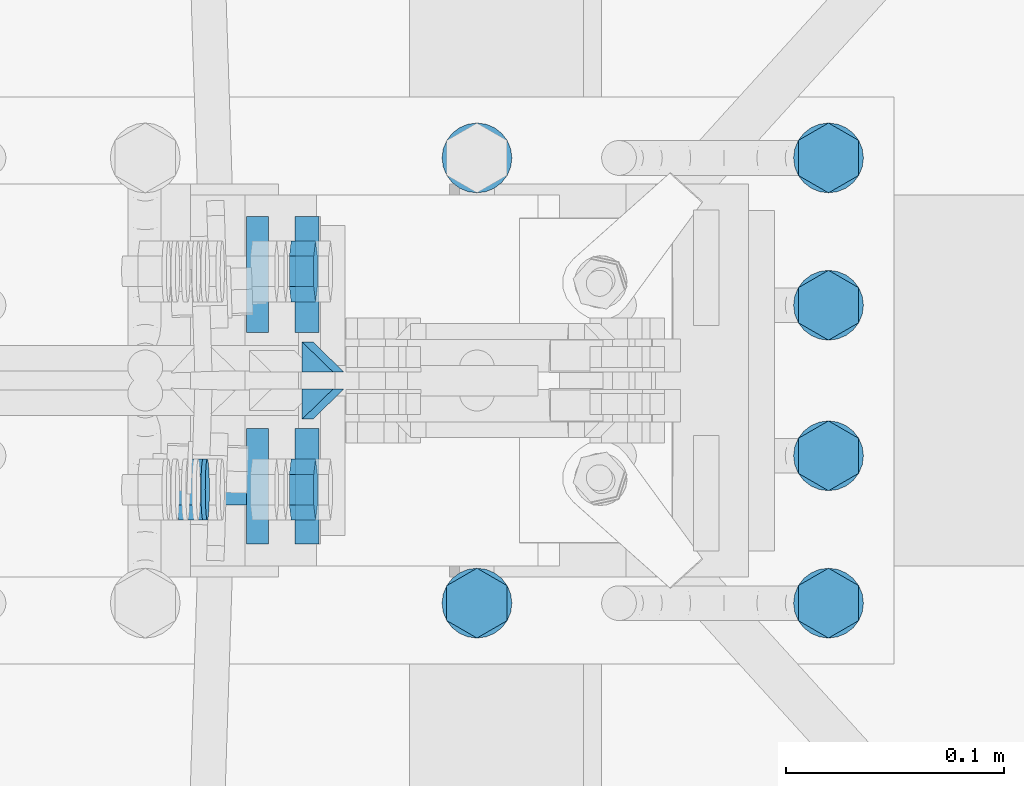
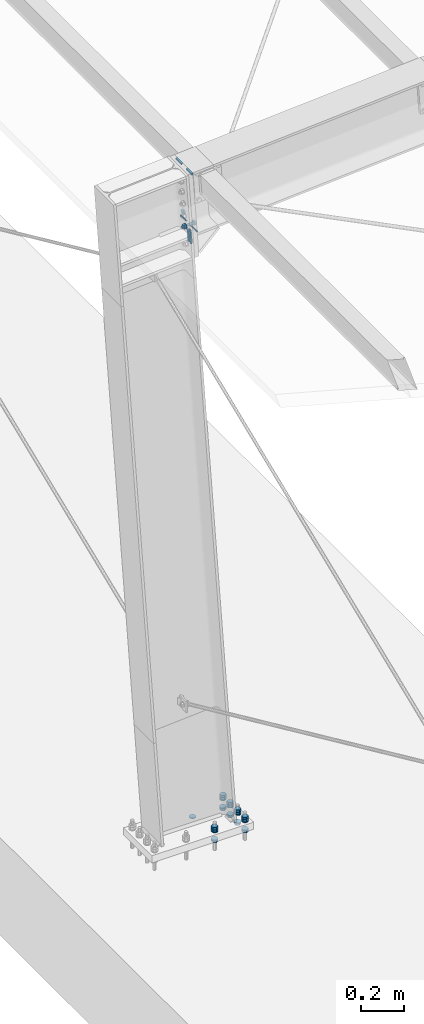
# One storey, part 45 of 72: 31 mechanical fasteners, 12 fasteners.
"""IFC4 building model written with IfcOpenShell, lengths in metres."""

from ifc_helpers import new_model, si_unit, frame, origin_with_axes, place, context, project, spatial, polyline, outline, extrude, type_object, element, save


model = new_model("IFC4")

# Units and contexts
model_context = context("Model", 3, precision=1e-05, world=origin_with_axes())
ifc_project = project(units=[si_unit("LENGTHUNIT", "METRE"), si_unit("AREAUNIT", "SQUARE_METRE"), si_unit("VOLUMEUNIT", "CUBIC_METRE"), si_unit("MASSUNIT", "GRAM", prefix="KILO"), si_unit("TIMEUNIT", "SECOND"), si_unit("PLANEANGLEUNIT", "RADIAN"), si_unit("SOLIDANGLEUNIT", "STERADIAN"), si_unit("THERMODYNAMICTEMPERATUREUNIT", "DEGREE_CELSIUS")], contexts=[model_context])

# Site, building, storey
placement_1 = place(None, origin_with_axes())
site = spatial("IfcSite", under=ifc_project, at=placement_1, Name="Italia", CompositionType="ELEMENT")
building = spatial("IfcBuilding", under=site, at=placement_1, Name="Pensilina", CompositionType="ELEMENT")
storey = spatial("IfcBuildingStorey", under=building, at=placement_1, Name="Storey 0", CompositionType="ELEMENT", Elevation=0.0)

# Mechanical fasteners
mechanical_fastener_type_1 = type_object("IfcMechanicalFastenerType", Name="Collegamento 0003_-198", PredefinedType="BOLT")
placement_2 = place(placement_1, origin_with_axes())
mechanical_fastener_1_placement = place(placement_2, origin_with_axes())
element("IfcMechanicalFastener", 1, at=mechanical_fastener_1_placement, inside=storey, type_object=mechanical_fastener_type_1, Name="Collegamento 0003_-198", NominalDiameter=0.032, context=model_context, shape_type="SweptSolid", body=[
    extrude(outline(polyline([(0.0, 0.0, 0.0), (-0.000544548, -0.00414109, 0.0), (-0.00214386, -0.00800002, 0.0), (-0.00468636, -0.0113137, 0.0), (-0.00799942, -0.0138564, 0.0), (-0.0118589, -0.0154548, 0.0), (-0.0159998, -0.016, 0.0), (-0.0201406, -0.0154548, 0.0), (-0.0240002, -0.0138564, 0.0), (-0.0273132, -0.0113137, 0.0), (-0.0298557, -0.00800002, 0.0), (-0.031455, -0.00414109, 0.0), (-0.0319996, 0.0, 0.0), (-0.031455, 0.00414109, 0.0), (-0.0298557, 0.00800002, 0.0), (-0.0273132, 0.0113137, 0.0), (-0.0240002, 0.0138564, 0.0), (-0.0201406, 0.0154548, 0.0), (-0.0159998, 0.016, 0.0), (-0.0118589, 0.0154548, 0.0), (-0.00799942, 0.0138564, 0.0), (-0.00468636, 0.0113137, 0.0), (-0.00214386, 0.00800002, 0.0), (-0.000544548, 0.00414109, 0.0), (0.0, 0.0, 0.0)])), frame((1.00805, 10.678, 0.0597081), z_axis=(0.0, 0.0, 1.0), x_axis=(0.0, 1.0, 0.0)), (0.0, 0.0, 1.0), 0.004),
])
mechanical_fastener_type_2 = type_object("IfcMechanicalFastenerType", Name="Collegamento 0003_-198", PredefinedType="BOLT")
mechanical_fastener_2_placement = place(placement_2, origin_with_axes())
element("IfcMechanicalFastener", 2, at=mechanical_fastener_2_placement, inside=storey, type_object=mechanical_fastener_type_2, Name="Collegamento 0003_-198", NominalDiameter=0.0159997, context=model_context, shape_type="SweptSolid", body=[
    extrude(outline(polyline([(0.0, 0.0, 0.0), (0.0159998, 0.0, 0.0), (0.0239992, -0.0138565, 0.0), (0.0159998, -0.0277129, 0.0), (0.0, -0.0277129, 0.0), (-0.00800037, -0.0138565, 0.0), (0.0, 0.0, 0.0)])), frame((0.99419, 10.45, 0.107708), z_axis=(0.0, 0.0, 1.0), x_axis=(0.0, 1.0, 0.0)), (0.0, 0.0, 1.0), 0.0128),
])
mechanical_fastener_type_3 = type_object("IfcMechanicalFastenerType", Name="Collegamento 0003_-198", PredefinedType="BOLT")
mechanical_fastener_3_placement = place(placement_2, origin_with_axes())
element("IfcMechanicalFastener", 3, at=mechanical_fastener_3_placement, inside=storey, type_object=mechanical_fastener_type_3, Name="Collegamento 0003_-198", NominalDiameter=0.0159997, context=model_context, shape_type="SweptSolid", body=[
    extrude(outline(polyline([(0.0, 0.0, 0.0), (0.0159998, 0.0, 0.0), (0.0239992, -0.0138565, 0.0), (0.0159998, -0.0277129, 0.0), (0.0, -0.0277129, 0.0), (-0.00800037, -0.0138565, 0.0), (0.0, 0.0, 0.0)])), frame((0.99419, 10.45, 0.120508), z_axis=(0.0, 0.0, 1.0), x_axis=(0.0, 1.0, 0.0)), (0.0, 0.0, 1.0), 0.0128),
])
mechanical_fastener_type_4 = type_object("IfcMechanicalFastenerType", Name="Collegamento 0003_-198", PredefinedType="BOLT")
mechanical_fastener_4_placement = place(placement_2, origin_with_axes())
element("IfcMechanicalFastener", 4, at=mechanical_fastener_4_placement, inside=storey, type_object=mechanical_fastener_type_4, Name="Collegamento 0003_-198", NominalDiameter=0.0159997, context=model_context, shape_type="SweptSolid", body=[
    extrude(outline(polyline([(0.0, 0.0, 0.0), (0.0159998, 0.0, 0.0), (0.0239992, -0.0138565, 0.0), (0.0159998, -0.0277129, 0.0), (0.0, -0.0277129, 0.0), (-0.00800037, -0.0138565, 0.0), (0.0, 0.0, 0.0)])), frame((0.99419, 10.45, 0.0469081), z_axis=(0.0, 0.0, 1.0), x_axis=(0.0, 1.0, 0.0)), (0.0, 0.0, 1.0), 0.0128),
])
mechanical_fastener_type_5 = type_object("IfcMechanicalFastenerType", Name="Collegamento 0003_-198", PredefinedType="BOLT")
mechanical_fastener_5_placement = place(placement_2, origin_with_axes())
element("IfcMechanicalFastener", 5, at=mechanical_fastener_5_placement, inside=storey, type_object=mechanical_fastener_type_5, Name="Collegamento 0003_-198", NominalDiameter=0.032, context=model_context, shape_type="SweptSolid", body=[
    extrude(outline(polyline([(0.0, 0.0, 0.0), (-0.000544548, -0.00414109, 0.0), (-0.00214386, -0.00800002, 0.0), (-0.00468636, -0.0113137, 0.0), (-0.00799942, -0.0138564, 0.0), (-0.0118589, -0.0154548, 0.0), (-0.0159998, -0.016, 0.0), (-0.0201406, -0.0154548, 0.0), (-0.0240002, -0.0138564, 0.0), (-0.0273132, -0.0113137, 0.0), (-0.0298557, -0.00800002, 0.0), (-0.031455, -0.00414109, 0.0), (-0.0319996, 0.0, 0.0), (-0.031455, 0.00414109, 0.0), (-0.0298557, 0.00800002, 0.0), (-0.0273132, 0.0113137, 0.0), (-0.0240002, 0.0138564, 0.0), (-0.0201406, 0.0154548, 0.0), (-0.0159998, 0.016, 0.0), (-0.0118589, 0.0154548, 0.0), (-0.00799942, 0.0138564, 0.0), (-0.00468636, 0.0113137, 0.0), (-0.00214386, 0.00800002, 0.0), (-0.000544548, 0.00414109, 0.0), (0.0, 0.0, 0.0)])), frame((1.00805, 10.474, 0.103708), z_axis=(0.0, 0.0, 1.0), x_axis=(0.0, 1.0, 0.0)), (0.0, 0.0, 1.0), 0.004),
])
mechanical_fastener_type_6 = type_object("IfcMechanicalFastenerType", Name="Collegamento 0003_-198", PredefinedType="BOLT")
mechanical_fastener_6_placement = place(placement_2, origin_with_axes())
element("IfcMechanicalFastener", 6, at=mechanical_fastener_6_placement, inside=storey, type_object=mechanical_fastener_type_6, Name="Collegamento 0003_-198", NominalDiameter=0.032, context=model_context, shape_type="SweptSolid", body=[
    extrude(outline(polyline([(0.0, 0.0, 0.0), (-0.000544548, -0.00414109, 0.0), (-0.00214386, -0.00800002, 0.0), (-0.00468636, -0.0113137, 0.0), (-0.00799942, -0.0138564, 0.0), (-0.0118589, -0.0154548, 0.0), (-0.0159998, -0.016, 0.0), (-0.0201406, -0.0154548, 0.0), (-0.0240002, -0.0138564, 0.0), (-0.0273132, -0.0113137, 0.0), (-0.0298557, -0.00800002, 0.0), (-0.031455, -0.00414109, 0.0), (-0.0319996, 0.0, 0.0), (-0.031455, 0.00414109, 0.0), (-0.0298557, 0.00800002, 0.0), (-0.0273132, 0.0113137, 0.0), (-0.0240002, 0.0138564, 0.0), (-0.0201406, 0.0154548, 0.0), (-0.0159998, 0.016, 0.0), (-0.0118589, 0.0154548, 0.0), (-0.00799942, 0.0138564, 0.0), (-0.00468636, 0.0113137, 0.0), (-0.00214386, 0.00800002, 0.0), (-0.000544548, 0.00414109, 0.0), (0.0, 0.0, 0.0)])), frame((1.00805, 10.474, 0.0597081), z_axis=(0.0, 0.0, 1.0), x_axis=(0.0, 1.0, 0.0)), (0.0, 0.0, 1.0), 0.004),
])
mechanical_fastener_type_7 = type_object("IfcMechanicalFastenerType", Name="Collegamento 0003_-198", PredefinedType="BOLT")
mechanical_fastener_7_placement = place(placement_2, origin_with_axes())
element("IfcMechanicalFastener", 7, at=mechanical_fastener_7_placement, inside=storey, type_object=mechanical_fastener_type_7, Name="Collegamento 0003_-198", NominalDiameter=0.0159997, context=model_context, shape_type="SweptSolid", body=[
    extrude(outline(polyline([(0.0, 0.0, 0.0), (0.0159998, 0.0, 0.0), (0.0240002, -0.0138564, 0.0), (0.0159998, -0.0277128, 0.0), (0.0, -0.0277128, 0.0), (-0.00799942, -0.0138564, 0.0), (0.0, 0.0, 0.0)])), frame((1.15527, 10.654, 0.107708), z_axis=(0.0, 0.0, 1.0), x_axis=(0.0, 1.0, 0.0)), (0.0, 0.0, 1.0), 0.0128),
])
mechanical_fastener_type_8 = type_object("IfcMechanicalFastenerType", Name="Collegamento 0003_-198", PredefinedType="BOLT")
mechanical_fastener_8_placement = place(placement_2, origin_with_axes())
element("IfcMechanicalFastener", 8, at=mechanical_fastener_8_placement, inside=storey, type_object=mechanical_fastener_type_8, Name="Collegamento 0003_-198", NominalDiameter=0.0159997, context=model_context, shape_type="SweptSolid", body=[
    extrude(outline(polyline([(0.0, 0.0, 0.0), (0.0159998, 0.0, 0.0), (0.0240002, -0.0138564, 0.0), (0.0159998, -0.0277128, 0.0), (0.0, -0.0277128, 0.0), (-0.00799942, -0.0138564, 0.0), (0.0, 0.0, 0.0)])), frame((1.15527, 10.654, 0.120508), z_axis=(0.0, 0.0, 1.0), x_axis=(0.0, 1.0, 0.0)), (0.0, 0.0, 1.0), 0.0128),
])
mechanical_fastener_type_9 = type_object("IfcMechanicalFastenerType", Name="Collegamento 0003_-198", PredefinedType="BOLT")
mechanical_fastener_9_placement = place(placement_2, origin_with_axes())
element("IfcMechanicalFastener", 9, at=mechanical_fastener_9_placement, inside=storey, type_object=mechanical_fastener_type_9, Name="Collegamento 0003_-198", NominalDiameter=0.0159997, context=model_context, shape_type="SweptSolid", body=[
    extrude(outline(polyline([(0.0, 0.0, 0.0), (0.0159998, 0.0, 0.0), (0.0240002, -0.0138564, 0.0), (0.0159998, -0.0277128, 0.0), (0.0, -0.0277128, 0.0), (-0.00799942, -0.0138564, 0.0), (0.0, 0.0, 0.0)])), frame((1.15527, 10.654, 0.0469081), z_axis=(0.0, 0.0, 1.0), x_axis=(0.0, 1.0, 0.0)), (0.0, 0.0, 1.0), 0.0128),
])
mechanical_fastener_type_10 = type_object("IfcMechanicalFastenerType", Name="Collegamento 0003_-198", PredefinedType="BOLT")
mechanical_fastener_10_placement = place(placement_2, origin_with_axes())
element("IfcMechanicalFastener", 10, at=mechanical_fastener_10_placement, inside=storey, type_object=mechanical_fastener_type_10, Name="Collegamento 0003_-198", NominalDiameter=0.032, context=model_context, shape_type="SweptSolid", body=[
    extrude(outline(polyline([(0.0, 0.0, 0.0), (-0.000544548, -0.00414109, 0.0), (-0.00214386, -0.00800002, 0.0), (-0.00468636, -0.0113137, 0.0), (-0.00799942, -0.0138564, 0.0), (-0.0118589, -0.0154548, 0.0), (-0.0159998, -0.016, 0.0), (-0.0201406, -0.0154548, 0.0), (-0.0240002, -0.0138564, 0.0), (-0.0273132, -0.0113137, 0.0), (-0.0298557, -0.00800002, 0.0), (-0.031455, -0.00414109, 0.0), (-0.0319996, 0.0, 0.0), (-0.031455, 0.00414109, 0.0), (-0.0298557, 0.00800002, 0.0), (-0.0273132, 0.0113137, 0.0), (-0.0240002, 0.0138564, 0.0), (-0.0201406, 0.0154548, 0.0), (-0.0159998, 0.016, 0.0), (-0.0118589, 0.0154548, 0.0), (-0.00799942, 0.0138564, 0.0), (-0.00468636, 0.0113137, 0.0), (-0.00214386, 0.00800002, 0.0), (-0.000544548, 0.00414109, 0.0), (0.0, 0.0, 0.0)])), frame((1.16913, 10.678, 0.103708), z_axis=(0.0, 0.0, 1.0), x_axis=(0.0, 1.0, 0.0)), (0.0, 0.0, 1.0), 0.004),
])
mechanical_fastener_type_11 = type_object("IfcMechanicalFastenerType", Name="Collegamento 0003_-198", PredefinedType="BOLT")
mechanical_fastener_11_placement = place(placement_2, origin_with_axes())
element("IfcMechanicalFastener", 11, at=mechanical_fastener_11_placement, inside=storey, type_object=mechanical_fastener_type_11, Name="Collegamento 0003_-198", NominalDiameter=0.032, context=model_context, shape_type="SweptSolid", body=[
    extrude(outline(polyline([(0.0, 0.0, 0.0), (-0.000544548, -0.00414109, 0.0), (-0.00214386, -0.00800002, 0.0), (-0.00468636, -0.0113137, 0.0), (-0.00799942, -0.0138564, 0.0), (-0.0118589, -0.0154548, 0.0), (-0.0159998, -0.016, 0.0), (-0.0201406, -0.0154548, 0.0), (-0.0240002, -0.0138564, 0.0), (-0.0273132, -0.0113137, 0.0), (-0.0298557, -0.00800002, 0.0), (-0.031455, -0.00414109, 0.0), (-0.0319996, 0.0, 0.0), (-0.031455, 0.00414109, 0.0), (-0.0298557, 0.00800002, 0.0), (-0.0273132, 0.0113137, 0.0), (-0.0240002, 0.0138564, 0.0), (-0.0201406, 0.0154548, 0.0), (-0.0159998, 0.016, 0.0), (-0.0118589, 0.0154548, 0.0), (-0.00799942, 0.0138564, 0.0), (-0.00468636, 0.0113137, 0.0), (-0.00214386, 0.00800002, 0.0), (-0.000544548, 0.00414109, 0.0), (0.0, 0.0, 0.0)])), frame((1.16913, 10.678, 0.0597081), z_axis=(0.0, 0.0, 1.0), x_axis=(0.0, 1.0, 0.0)), (0.0, 0.0, 1.0), 0.004),
])
mechanical_fastener_type_12 = type_object("IfcMechanicalFastenerType", Name="Collegamento 0003_-198", PredefinedType="BOLT")
mechanical_fastener_12_placement = place(placement_2, origin_with_axes())
element("IfcMechanicalFastener", 12, at=mechanical_fastener_12_placement, inside=storey, type_object=mechanical_fastener_type_12, Name="Collegamento 0003_-198", NominalDiameter=0.0159997, context=model_context, shape_type="SweptSolid", body=[
    extrude(outline(polyline([(0.0, 0.0, 0.0), (0.0159998, 0.0, 0.0), (0.0240002, -0.0138564, 0.0), (0.0159998, -0.0277128, 0.0), (0.0, -0.0277128, 0.0), (-0.00799942, -0.0138564, 0.0), (0.0, 0.0, 0.0)])), frame((1.15527, 10.5865, 0.107708), z_axis=(0.0, 0.0, 1.0), x_axis=(0.0, 1.0, 0.0)), (0.0, 0.0, 1.0), 0.0128),
])
mechanical_fastener_type_13 = type_object("IfcMechanicalFastenerType", Name="Collegamento 0003_-198", PredefinedType="BOLT")
mechanical_fastener_13_placement = place(placement_2, origin_with_axes())
element("IfcMechanicalFastener", 13, at=mechanical_fastener_13_placement, inside=storey, type_object=mechanical_fastener_type_13, Name="Collegamento 0003_-198", NominalDiameter=0.0159997, context=model_context, shape_type="SweptSolid", body=[
    extrude(outline(polyline([(0.0, 0.0, 0.0), (0.0159998, 0.0, 0.0), (0.0240002, -0.0138564, 0.0), (0.0159998, -0.0277128, 0.0), (0.0, -0.0277128, 0.0), (-0.00799942, -0.0138564, 0.0), (0.0, 0.0, 0.0)])), frame((1.15527, 10.5865, 0.120508), z_axis=(0.0, 0.0, 1.0), x_axis=(0.0, 1.0, 0.0)), (0.0, 0.0, 1.0), 0.0128),
])
mechanical_fastener_type_14 = type_object("IfcMechanicalFastenerType", Name="Collegamento 0003_-198", PredefinedType="BOLT")
mechanical_fastener_14_placement = place(placement_2, origin_with_axes())
element("IfcMechanicalFastener", 14, at=mechanical_fastener_14_placement, inside=storey, type_object=mechanical_fastener_type_14, Name="Collegamento 0003_-198", NominalDiameter=0.0159997, context=model_context, shape_type="SweptSolid", body=[
    extrude(outline(polyline([(0.0, 0.0, 0.0), (0.0159998, 0.0, 0.0), (0.0240002, -0.0138564, 0.0), (0.0159998, -0.0277128, 0.0), (0.0, -0.0277128, 0.0), (-0.00799942, -0.0138564, 0.0), (0.0, 0.0, 0.0)])), frame((1.15527, 10.5865, 0.0469081), z_axis=(0.0, 0.0, 1.0), x_axis=(0.0, 1.0, 0.0)), (0.0, 0.0, 1.0), 0.0128),
])
mechanical_fastener_type_15 = type_object("IfcMechanicalFastenerType", Name="Collegamento 0003_-198", PredefinedType="BOLT")
mechanical_fastener_15_placement = place(placement_2, origin_with_axes())
element("IfcMechanicalFastener", 15, at=mechanical_fastener_15_placement, inside=storey, type_object=mechanical_fastener_type_15, Name="Collegamento 0003_-198", NominalDiameter=0.032, context=model_context, shape_type="SweptSolid", body=[
    extrude(outline(polyline([(0.0, 0.0, 0.0), (-0.000544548, -0.00414109, 0.0), (-0.00214386, -0.00800002, 0.0), (-0.00468636, -0.0113137, 0.0), (-0.00799942, -0.0138564, 0.0), (-0.0118589, -0.0154548, 0.0), (-0.0159998, -0.016, 0.0), (-0.0201406, -0.0154548, 0.0), (-0.0240002, -0.0138564, 0.0), (-0.0273132, -0.0113137, 0.0), (-0.0298557, -0.00800002, 0.0), (-0.031455, -0.00414109, 0.0), (-0.0319996, 0.0, 0.0), (-0.031455, 0.00414109, 0.0), (-0.0298557, 0.00800002, 0.0), (-0.0273132, 0.0113137, 0.0), (-0.0240002, 0.0138564, 0.0), (-0.0201406, 0.0154548, 0.0), (-0.0159998, 0.016, 0.0), (-0.0118589, 0.0154548, 0.0), (-0.00799942, 0.0138564, 0.0), (-0.00468636, 0.0113137, 0.0), (-0.00214386, 0.00800002, 0.0), (-0.000544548, 0.00414109, 0.0), (0.0, 0.0, 0.0)])), frame((1.16913, 10.6105, 0.103708), z_axis=(0.0, 0.0, 1.0), x_axis=(0.0, 1.0, 0.0)), (0.0, 0.0, 1.0), 0.004),
])
mechanical_fastener_type_16 = type_object("IfcMechanicalFastenerType", Name="Collegamento 0003_-198", PredefinedType="BOLT")
mechanical_fastener_16_placement = place(placement_2, origin_with_axes())
element("IfcMechanicalFastener", 16, at=mechanical_fastener_16_placement, inside=storey, type_object=mechanical_fastener_type_16, Name="Collegamento 0003_-198", NominalDiameter=0.032, context=model_context, shape_type="SweptSolid", body=[
    extrude(outline(polyline([(0.0, 0.0, 0.0), (-0.000544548, -0.00414109, 0.0), (-0.00214386, -0.00800002, 0.0), (-0.00468636, -0.0113137, 0.0), (-0.00799942, -0.0138564, 0.0), (-0.0118589, -0.0154548, 0.0), (-0.0159998, -0.016, 0.0), (-0.0201406, -0.0154548, 0.0), (-0.0240002, -0.0138564, 0.0), (-0.0273132, -0.0113137, 0.0), (-0.0298557, -0.00800002, 0.0), (-0.031455, -0.00414109, 0.0), (-0.0319996, 0.0, 0.0), (-0.031455, 0.00414109, 0.0), (-0.0298557, 0.00800002, 0.0), (-0.0273132, 0.0113137, 0.0), (-0.0240002, 0.0138564, 0.0), (-0.0201406, 0.0154548, 0.0), (-0.0159998, 0.016, 0.0), (-0.0118589, 0.0154548, 0.0), (-0.00799942, 0.0138564, 0.0), (-0.00468636, 0.0113137, 0.0), (-0.00214386, 0.00800002, 0.0), (-0.000544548, 0.00414109, 0.0), (0.0, 0.0, 0.0)])), frame((1.16913, 10.6105, 0.0597081), z_axis=(0.0, 0.0, 1.0), x_axis=(0.0, 1.0, 0.0)), (0.0, 0.0, 1.0), 0.004),
])
mechanical_fastener_type_17 = type_object("IfcMechanicalFastenerType", Name="Collegamento 0003_-198", PredefinedType="BOLT")
mechanical_fastener_17_placement = place(placement_2, origin_with_axes())
element("IfcMechanicalFastener", 17, at=mechanical_fastener_17_placement, inside=storey, type_object=mechanical_fastener_type_17, Name="Collegamento 0003_-198", NominalDiameter=0.0159997, context=model_context, shape_type="SweptSolid", body=[
    extrude(outline(polyline([(0.0, 0.0, 0.0), (0.0159998, 0.0, 0.0), (0.0239992, -0.0138564, 0.0), (0.0159998, -0.0277128, 0.0), (0.0, -0.0277128, 0.0), (-0.00800037, -0.0138564, 0.0), (0.0, 0.0, 0.0)])), frame((1.15527, 10.5175, 0.107708), z_axis=(0.0, 0.0, 1.0), x_axis=(0.0, 1.0, 0.0)), (0.0, 0.0, 1.0), 0.0128),
])
mechanical_fastener_type_18 = type_object("IfcMechanicalFastenerType", Name="Collegamento 0003_-198", PredefinedType="BOLT")
mechanical_fastener_18_placement = place(placement_2, origin_with_axes())
element("IfcMechanicalFastener", 18, at=mechanical_fastener_18_placement, inside=storey, type_object=mechanical_fastener_type_18, Name="Collegamento 0003_-198", NominalDiameter=0.0159997, context=model_context, shape_type="SweptSolid", body=[
    extrude(outline(polyline([(0.0, 0.0, 0.0), (0.0159998, 0.0, 0.0), (0.0239992, -0.0138564, 0.0), (0.0159998, -0.0277128, 0.0), (0.0, -0.0277128, 0.0), (-0.00800037, -0.0138564, 0.0), (0.0, 0.0, 0.0)])), frame((1.15527, 10.5175, 0.120508), z_axis=(0.0, 0.0, 1.0), x_axis=(0.0, 1.0, 0.0)), (0.0, 0.0, 1.0), 0.0128),
])
mechanical_fastener_type_19 = type_object("IfcMechanicalFastenerType", Name="Collegamento 0003_-198", PredefinedType="BOLT")
mechanical_fastener_19_placement = place(placement_2, origin_with_axes())
element("IfcMechanicalFastener", 19, at=mechanical_fastener_19_placement, inside=storey, type_object=mechanical_fastener_type_19, Name="Collegamento 0003_-198", NominalDiameter=0.0159997, context=model_context, shape_type="SweptSolid", body=[
    extrude(outline(polyline([(0.0, 0.0, 0.0), (0.0159998, 0.0, 0.0), (0.0239992, -0.0138564, 0.0), (0.0159998, -0.0277128, 0.0), (0.0, -0.0277128, 0.0), (-0.00800037, -0.0138564, 0.0), (0.0, 0.0, 0.0)])), frame((1.15527, 10.5175, 0.0469081), z_axis=(0.0, 0.0, 1.0), x_axis=(0.0, 1.0, 0.0)), (0.0, 0.0, 1.0), 0.0128),
])
mechanical_fastener_type_20 = type_object("IfcMechanicalFastenerType", Name="Collegamento 0003_-198", PredefinedType="BOLT")
mechanical_fastener_20_placement = place(placement_2, origin_with_axes())
element("IfcMechanicalFastener", 20, at=mechanical_fastener_20_placement, inside=storey, type_object=mechanical_fastener_type_20, Name="Collegamento 0003_-198", NominalDiameter=0.032, context=model_context, shape_type="SweptSolid", body=[
    extrude(outline(polyline([(0.0, 0.0, 0.0), (-0.000544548, -0.00414109, 0.0), (-0.00214386, -0.00800002, 0.0), (-0.00468636, -0.0113137, 0.0), (-0.00799942, -0.0138564, 0.0), (-0.0118589, -0.0154548, 0.0), (-0.0159998, -0.016, 0.0), (-0.0201406, -0.0154548, 0.0), (-0.0240002, -0.0138564, 0.0), (-0.0273132, -0.0113137, 0.0), (-0.0298557, -0.00800002, 0.0), (-0.031455, -0.00414109, 0.0), (-0.0319996, 0.0, 0.0), (-0.031455, 0.00414109, 0.0), (-0.0298557, 0.00800002, 0.0), (-0.0273132, 0.0113137, 0.0), (-0.0240002, 0.0138564, 0.0), (-0.0201406, 0.0154548, 0.0), (-0.0159998, 0.016, 0.0), (-0.0118589, 0.0154548, 0.0), (-0.00799942, 0.0138564, 0.0), (-0.00468636, 0.0113137, 0.0), (-0.00214386, 0.00800002, 0.0), (-0.000544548, 0.00414109, 0.0), (0.0, 0.0, 0.0)])), frame((1.16913, 10.5415, 0.103708), z_axis=(0.0, 0.0, 1.0), x_axis=(0.0, 1.0, 0.0)), (0.0, 0.0, 1.0), 0.004),
])
mechanical_fastener_type_21 = type_object("IfcMechanicalFastenerType", Name="Collegamento 0003_-198", PredefinedType="BOLT")
mechanical_fastener_21_placement = place(placement_2, origin_with_axes())
element("IfcMechanicalFastener", 21, at=mechanical_fastener_21_placement, inside=storey, type_object=mechanical_fastener_type_21, Name="Collegamento 0003_-198", NominalDiameter=0.032, context=model_context, shape_type="SweptSolid", body=[
    extrude(outline(polyline([(0.0, 0.0, 0.0), (-0.000544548, -0.00414109, 0.0), (-0.00214386, -0.00800002, 0.0), (-0.00468636, -0.0113137, 0.0), (-0.00799942, -0.0138564, 0.0), (-0.0118589, -0.0154548, 0.0), (-0.0159998, -0.016, 0.0), (-0.0201406, -0.0154548, 0.0), (-0.0240002, -0.0138564, 0.0), (-0.0273132, -0.0113137, 0.0), (-0.0298557, -0.00800002, 0.0), (-0.031455, -0.00414109, 0.0), (-0.0319996, 0.0, 0.0), (-0.031455, 0.00414109, 0.0), (-0.0298557, 0.00800002, 0.0), (-0.0273132, 0.0113137, 0.0), (-0.0240002, 0.0138564, 0.0), (-0.0201406, 0.0154548, 0.0), (-0.0159998, 0.016, 0.0), (-0.0118589, 0.0154548, 0.0), (-0.00799942, 0.0138564, 0.0), (-0.00468636, 0.0113137, 0.0), (-0.00214386, 0.00800002, 0.0), (-0.000544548, 0.00414109, 0.0), (0.0, 0.0, 0.0)])), frame((1.16913, 10.5415, 0.0597081), z_axis=(0.0, 0.0, 1.0), x_axis=(0.0, 1.0, 0.0)), (0.0, 0.0, 1.0), 0.004),
])
mechanical_fastener_type_22 = type_object("IfcMechanicalFastenerType", Name="Collegamento 0003_-198", PredefinedType="BOLT")
mechanical_fastener_22_placement = place(placement_2, origin_with_axes())
element("IfcMechanicalFastener", 22, at=mechanical_fastener_22_placement, inside=storey, type_object=mechanical_fastener_type_22, Name="Collegamento 0003_-198", NominalDiameter=0.0159997, context=model_context, shape_type="SweptSolid", body=[
    extrude(outline(polyline([(0.0, 0.0, 0.0), (0.0159998, 0.0, 0.0), (0.0239992, -0.0138564, 0.0), (0.0159998, -0.0277128, 0.0), (0.0, -0.0277128, 0.0), (-0.00800037, -0.0138564, 0.0), (0.0, 0.0, 0.0)])), frame((1.15527, 10.45, 0.107708), z_axis=(0.0, 0.0, 1.0), x_axis=(0.0, 1.0, 0.0)), (0.0, 0.0, 1.0), 0.0128),
])
mechanical_fastener_type_23 = type_object("IfcMechanicalFastenerType", Name="Collegamento 0003_-198", PredefinedType="BOLT")
mechanical_fastener_23_placement = place(placement_2, origin_with_axes())
element("IfcMechanicalFastener", 23, at=mechanical_fastener_23_placement, inside=storey, type_object=mechanical_fastener_type_23, Name="Collegamento 0003_-198", NominalDiameter=0.0159997, context=model_context, shape_type="SweptSolid", body=[
    extrude(outline(polyline([(0.0, 0.0, 0.0), (0.0159998, 0.0, 0.0), (0.0239992, -0.0138564, 0.0), (0.0159998, -0.0277128, 0.0), (0.0, -0.0277128, 0.0), (-0.00800037, -0.0138564, 0.0), (0.0, 0.0, 0.0)])), frame((1.15527, 10.45, 0.120508), z_axis=(0.0, 0.0, 1.0), x_axis=(0.0, 1.0, 0.0)), (0.0, 0.0, 1.0), 0.0128),
])
mechanical_fastener_type_24 = type_object("IfcMechanicalFastenerType", Name="Collegamento 0003_-198", PredefinedType="BOLT")
mechanical_fastener_24_placement = place(placement_2, origin_with_axes())
element("IfcMechanicalFastener", 24, at=mechanical_fastener_24_placement, inside=storey, type_object=mechanical_fastener_type_24, Name="Collegamento 0003_-198", NominalDiameter=0.0159997, context=model_context, shape_type="SweptSolid", body=[
    extrude(outline(polyline([(0.0, 0.0, 0.0), (0.0159998, 0.0, 0.0), (0.0239992, -0.0138564, 0.0), (0.0159998, -0.0277128, 0.0), (0.0, -0.0277128, 0.0), (-0.00800037, -0.0138564, 0.0), (0.0, 0.0, 0.0)])), frame((1.15527, 10.45, 0.0469081), z_axis=(0.0, 0.0, 1.0), x_axis=(0.0, 1.0, 0.0)), (0.0, 0.0, 1.0), 0.0128),
])
mechanical_fastener_type_25 = type_object("IfcMechanicalFastenerType", Name="Collegamento 0003_-198", PredefinedType="BOLT")
mechanical_fastener_25_placement = place(placement_2, origin_with_axes())
element("IfcMechanicalFastener", 25, at=mechanical_fastener_25_placement, inside=storey, type_object=mechanical_fastener_type_25, Name="Collegamento 0003_-198", NominalDiameter=0.032, context=model_context, shape_type="SweptSolid", body=[
    extrude(outline(polyline([(0.0, 0.0, 0.0), (-0.000544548, -0.00414109, 0.0), (-0.00214386, -0.00800002, 0.0), (-0.00468636, -0.0113137, 0.0), (-0.00799942, -0.0138564, 0.0), (-0.0118589, -0.0154548, 0.0), (-0.0159998, -0.016, 0.0), (-0.0201406, -0.0154548, 0.0), (-0.0240002, -0.0138564, 0.0), (-0.0273132, -0.0113137, 0.0), (-0.0298557, -0.00800002, 0.0), (-0.031455, -0.00414109, 0.0), (-0.0319996, 0.0, 0.0), (-0.031455, 0.00414109, 0.0), (-0.0298557, 0.00800002, 0.0), (-0.0273132, 0.0113137, 0.0), (-0.0240002, 0.0138564, 0.0), (-0.0201406, 0.0154548, 0.0), (-0.0159998, 0.016, 0.0), (-0.0118589, 0.0154548, 0.0), (-0.00799942, 0.0138564, 0.0), (-0.00468636, 0.0113137, 0.0), (-0.00214386, 0.00800002, 0.0), (-0.000544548, 0.00414109, 0.0), (0.0, 0.0, 0.0)])), frame((1.16913, 10.474, 0.103708), z_axis=(0.0, 0.0, 1.0), x_axis=(0.0, 1.0, 0.0)), (0.0, 0.0, 1.0), 0.004),
])
mechanical_fastener_type_26 = type_object("IfcMechanicalFastenerType", Name="Collegamento 0003_-198", PredefinedType="BOLT")
mechanical_fastener_26_placement = place(placement_2, origin_with_axes())
element("IfcMechanicalFastener", 26, at=mechanical_fastener_26_placement, inside=storey, type_object=mechanical_fastener_type_26, Name="Collegamento 0003_-198", NominalDiameter=0.032, context=model_context, shape_type="SweptSolid", body=[
    extrude(outline(polyline([(0.0, 0.0, 0.0), (-0.000544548, -0.00414109, 0.0), (-0.00214386, -0.00800002, 0.0), (-0.00468636, -0.0113137, 0.0), (-0.00799942, -0.0138564, 0.0), (-0.0118589, -0.0154548, 0.0), (-0.0159998, -0.016, 0.0), (-0.0201406, -0.0154548, 0.0), (-0.0240002, -0.0138564, 0.0), (-0.0273132, -0.0113137, 0.0), (-0.0298557, -0.00800002, 0.0), (-0.031455, -0.00414109, 0.0), (-0.0319996, 0.0, 0.0), (-0.031455, 0.00414109, 0.0), (-0.0298557, 0.00800002, 0.0), (-0.0273132, 0.0113137, 0.0), (-0.0240002, 0.0138564, 0.0), (-0.0201406, 0.0154548, 0.0), (-0.0159998, 0.016, 0.0), (-0.0118589, 0.0154548, 0.0), (-0.00799942, 0.0138564, 0.0), (-0.00468636, 0.0113137, 0.0), (-0.00214386, 0.00800002, 0.0), (-0.000544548, 0.00414109, 0.0), (0.0, 0.0, 0.0)])), frame((1.16913, 10.474, 0.0597081), z_axis=(0.0, 0.0, 1.0), x_axis=(0.0, 1.0, 0.0)), (0.0, 0.0, 1.0), 0.004),
])

# Fasteners
fastener_type_1 = type_object("IfcFastenerType", Name="Collegamento 0103_0203", PredefinedType="WELD")
fastener_1_placement = place(placement_2, origin_with_axes())
element("IfcFastener", 27, at=fastener_1_placement, inside=storey, type_object=fastener_type_1, Name="Collegamento 0103_0203", context=model_context, shape_type="SweptSolid", body=[
    extrude(outline(polyline([(0.0, 0.0, 0.0), (-0.00947309, 0.0105422, 0.0), (0.000676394, 0.00984502, 0.0), (0.0, 0.0, 0.0)])), frame((0.903157, 10.582, 3.80624), z_axis=(0.0, 1.0, 0.0), x_axis=(-1.0, 0.0, 0.0)), (0.0, 0.0, 1.0), 0.0531006),
])
fastener_type_2 = type_object("IfcFastenerType", Name="Collegamento 0103_0203", PredefinedType="WELD")
fastener_2_placement = place(placement_2, origin_with_axes())
element("IfcFastener", 28, at=fastener_2_placement, inside=storey, type_object=fastener_type_2, Name="Collegamento 0103_0203", context=model_context, shape_type="SweptSolid", body=[
    extrude(outline(polyline([(0.0, 0.0, 0.0), (0.0108258, -0.00914764, 0.0), (0.000676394, -0.00984478, 0.0), (0.0, 0.0, 0.0)])), frame((0.924744, 10.6351, 3.49202), z_axis=(0.0, -1.0, 0.0), x_axis=(1.0, 0.0, 0.0)), (0.0, 0.0, 1.0), 0.0531006),
])
fastener_type_3 = type_object("IfcFastenerType", Name="Collegamento 0103_0203", PredefinedType="WELD")
fastener_3_placement = place(placement_2, origin_with_axes())
element("IfcFastener", 29, at=fastener_3_placement, inside=storey, type_object=fastener_type_3, Name="Collegamento 0103_0203", context=model_context, shape_type="SweptSolid", body=[
    extrude(outline(polyline([(0.0, 0.0, 0.0), (0.0108258, -0.00914764, 0.0), (0.000676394, -0.00984478, 0.0), (0.0, 0.0, 0.0)])), frame((0.924744, 10.5381, 3.49202), z_axis=(0.0, -1.0, 0.0), x_axis=(1.0, 0.0, 0.0)), (0.0, 0.0, 1.0), 0.0531006),
])
fastener_type_4 = type_object("IfcFastenerType", Name="Collegamento 0103_0203", PredefinedType="WELD")
fastener_4_placement = place(placement_2, origin_with_axes())
element("IfcFastener", 30, at=fastener_4_placement, inside=storey, type_object=fastener_type_4, Name="Collegamento 0103_0203", context=model_context, shape_type="SweptSolid", body=[
    extrude(outline(polyline([(0.0, 0.0, 0.0), (-0.00947309, 0.0105422, 0.0), (0.000676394, 0.00984502, 0.0), (0.0, 0.0, 0.0)])), frame((0.903157, 10.485, 3.80624), z_axis=(0.0, 1.0, 0.0), x_axis=(-1.0, 0.0, 0.0)), (0.0, 0.0, 1.0), 0.0531006),
])
fastener_type_5 = type_object("IfcFastenerType", Name="Collegamento 0103_0203", PredefinedType="WELD")
fastener_5_placement = place(placement_2, origin_with_axes())
element("IfcFastener", 31, at=fastener_5_placement, inside=storey, type_object=fastener_type_5, Name="Collegamento 0103_0203", context=model_context, shape_type="SweptSolid", body=[
    extrude(outline(polyline([(0.0, 0.0, 0.0), (0.0137482, 0.0141734, 0.0), (0.0137482, 0.0, 0.0), (0.0, 0.0, 0.0)])), frame((0.932871, 10.5777, 3.37373), z_axis=(-0.068540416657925, 0.0, 0.997648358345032), x_axis=(0.0, -1.0, 0.0)), (0.0, 0.0, 1.0), 0.0721),
])
fastener_type_6 = type_object("IfcFastenerType", Name="Collegamento 0103_0203", PredefinedType="WELD")
fastener_6_placement = place(placement_2, origin_with_axes())
element("IfcFastener", 32, at=fastener_6_placement, inside=storey, type_object=fastener_type_6, Name="Collegamento 0103_0203", context=model_context, shape_type="SweptSolid", body=[
    extrude(outline(polyline([(0.0, 0.0, 0.0), (0.0137482, 0.0141734, 0.0), (0.0137482, 0.0, 0.0), (0.0, 0.0, 0.0)])), frame((0.927929, 10.5423, 3.44566), z_axis=(0.068540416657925, 0.0, -0.997648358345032), x_axis=(0.0, 1.0, 0.0)), (0.0, 0.0, 1.0), 0.0721),
])
fastener_type_7 = type_object("IfcFastenerType", Name="Collegamento 0103_0203", PredefinedType="WELD")
fastener_7_placement = place(placement_2, origin_with_axes())
element("IfcFastener", 33, at=fastener_7_placement, inside=storey, type_object=fastener_type_7, Name="Collegamento 0103_0203", context=model_context, shape_type="SweptSolid", body=[
    extrude(outline(polyline([(0.0, 0.0, 0.0), (-0.00947309, 0.0105422, 0.0), (0.000676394, 0.00984502, 0.0), (0.0, 0.0, 0.0)])), frame((0.903157, 10.582, 3.80624), z_axis=(0.0, 1.0, 0.0), x_axis=(-1.0, 0.0, 0.0)), (0.0, 0.0, 1.0), 0.0531006),
])
fastener_type_8 = type_object("IfcFastenerType", Name="Collegamento 0103_0203", PredefinedType="WELD")
fastener_8_placement = place(placement_2, origin_with_axes())
element("IfcFastener", 34, at=fastener_8_placement, inside=storey, type_object=fastener_type_8, Name="Collegamento 0103_0203", context=model_context, shape_type="SweptSolid", body=[
    extrude(outline(polyline([(0.0, 0.0, 0.0), (0.0108258, -0.00914764, 0.0), (0.000676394, -0.00984478, 0.0), (0.0, 0.0, 0.0)])), frame((0.924744, 10.6351, 3.49202), z_axis=(0.0, -1.0, 0.0), x_axis=(1.0, 0.0, 0.0)), (0.0, 0.0, 1.0), 0.0531006),
])
fastener_type_9 = type_object("IfcFastenerType", Name="Collegamento 0103_0203", PredefinedType="WELD")
fastener_9_placement = place(placement_2, origin_with_axes())
element("IfcFastener", 35, at=fastener_9_placement, inside=storey, type_object=fastener_type_9, Name="Collegamento 0103_0203", context=model_context, shape_type="SweptSolid", body=[
    extrude(outline(polyline([(0.0, 0.0, 0.0), (0.0108258, -0.00914764, 0.0), (0.000676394, -0.00984478, 0.0), (0.0, 0.0, 0.0)])), frame((0.924744, 10.5381, 3.49202), z_axis=(0.0, -1.0, 0.0), x_axis=(1.0, 0.0, 0.0)), (0.0, 0.0, 1.0), 0.0531006),
])
fastener_type_10 = type_object("IfcFastenerType", Name="Collegamento 0103_0203", PredefinedType="WELD")
fastener_10_placement = place(placement_2, origin_with_axes())
element("IfcFastener", 36, at=fastener_10_placement, inside=storey, type_object=fastener_type_10, Name="Collegamento 0103_0203", context=model_context, shape_type="SweptSolid", body=[
    extrude(outline(polyline([(0.0, 0.0, 0.0), (-0.00947309, 0.0105422, 0.0), (0.000676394, 0.00984502, 0.0), (0.0, 0.0, 0.0)])), frame((0.903157, 10.485, 3.80624), z_axis=(0.0, 1.0, 0.0), x_axis=(-1.0, 0.0, 0.0)), (0.0, 0.0, 1.0), 0.0531006),
])
fastener_type_11 = type_object("IfcFastenerType", Name="Collegamento 0103_0203", PredefinedType="WELD")
fastener_11_placement = place(placement_2, origin_with_axes())
element("IfcFastener", 37, at=fastener_11_placement, inside=storey, type_object=fastener_type_11, Name="Collegamento 0103_0203", context=model_context, shape_type="SweptSolid", body=[
    extrude(outline(polyline([(0.0, 0.0, 0.0), (0.0137482, 0.0141734, 0.0), (0.0137482, 0.0, 0.0), (0.0, 0.0, 0.0)])), frame((0.932871, 10.5777, 3.37373), z_axis=(-0.068540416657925, 0.0, 0.997648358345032), x_axis=(0.0, -1.0, 0.0)), (0.0, 0.0, 1.0), 0.0721),
])
fastener_type_12 = type_object("IfcFastenerType", Name="Collegamento 0103_0203", PredefinedType="WELD")
fastener_12_placement = place(placement_2, origin_with_axes())
element("IfcFastener", 38, at=fastener_12_placement, inside=storey, type_object=fastener_type_12, Name="Collegamento 0103_0203", context=model_context, shape_type="SweptSolid", body=[
    extrude(outline(polyline([(0.0, 0.0, 0.0), (0.0137482, 0.0141734, 0.0), (0.0137482, 0.0, 0.0), (0.0, 0.0, 0.0)])), frame((0.927929, 10.5423, 3.44566), z_axis=(0.068540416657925, 0.0, -0.997648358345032), x_axis=(0.0, 1.0, 0.0)), (0.0, 0.0, 1.0), 0.0721),
])

# Mechanical fasteners
mechanical_fastener_type_27 = type_object("IfcMechanicalFastenerType", Name="Collegamento 0103_0203", PredefinedType="BOLT")
mechanical_fastener_27_placement = place(placement_2, origin_with_axes())
element("IfcMechanicalFastener", 39, at=mechanical_fastener_27_placement, inside=storey, type_object=mechanical_fastener_type_27, Name="Collegamento 0103_0203", NominalDiameter=0.0139999, context=model_context, shape_type="SweptSolid", body=[
    extrude(outline(polyline([(0.0, 0.0, 0.0), (-0.0139999, 0.0, 0.0), (-0.0209999, 0.0121245, 0.0), (-0.0139999, 0.0242488, 0.0), (0.0, 0.0242488, 0.0), (0.00699997, 0.0121245, 0.0), (0.0, 0.0, 0.0)])), frame((0.923742, 10.517, 3.50734), z_axis=(0.997648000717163, 0.0, 0.068545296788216), x_axis=(0.0, 1.0, 0.0)), (0.0, 0.0, 1.0), 0.0112),
])
mechanical_fastener_type_28 = type_object("IfcMechanicalFastenerType", Name="Collegamento 0103_0203", PredefinedType="BOLT")
mechanical_fastener_28_placement = place(placement_2, origin_with_axes())
element("IfcMechanicalFastener", 40, at=mechanical_fastener_28_placement, inside=storey, type_object=mechanical_fastener_type_28, Name="Collegamento 0103_0203", NominalDiameter=0.014, context=model_context, shape_type="SweptSolid", body=[
    extrude(outline(polyline([(0.0, 0.0, 0.0), (-0.000238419, -0.00181174, 0.0), (-0.000937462, -0.00350022, 0.0), (-0.0020504, -0.00494981, 0.0), (-0.00349998, -0.00606227, 0.0), (-0.00518799, -0.00676155, 0.0), (-0.00699997, -0.00699997, 0.0), (-0.00881195, -0.00676155, 0.0), (-0.0105, -0.00606227, 0.0), (-0.0119495, -0.00494981, 0.0), (-0.0130625, -0.00350022, 0.0), (-0.0137615, -0.00181174, 0.0), (-0.0139999, 0.0, 0.0), (-0.0137615, 0.00181174, 0.0), (-0.0130625, 0.00349998, 0.0), (-0.0119495, 0.00494981, 0.0), (-0.0105, 0.00606227, 0.0), (-0.00881195, 0.00676155, 0.0), (-0.00699997, 0.00699997, 0.0), (-0.00518799, 0.00676155, 0.0), (-0.00349998, 0.00606227, 0.0), (-0.0020504, 0.00494981, 0.0), (-0.000937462, 0.00349998, 0.0), (-0.000238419, 0.00181174, 0.0), (0.0, 0.0, 0.0)])), frame((0.863551, 10.517, 3.51536), z_axis=(0.997648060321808, 0.0, 0.068544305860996), x_axis=(0.0, 1.0, 0.0)), (0.0, 0.0, 1.0), 0.0595),
])
mechanical_fastener_type_29 = type_object("IfcMechanicalFastenerType", Name="Collegamento 0103_0203", PredefinedType="BOLT")
mechanical_fastener_29_placement = place(placement_2, origin_with_axes())
element("IfcMechanicalFastener", 41, at=mechanical_fastener_29_placement, inside=storey, type_object=mechanical_fastener_type_29, Name="Collegamento 0103_0203", NominalDiameter=0.0139999, context=model_context, shape_type="SweptSolid", body=[
    extrude(outline(polyline([(0.0, 0.0, 0.0), (-0.0139999, 0.0, 0.0), (-0.0209999, 0.0121245, 0.0), (-0.0139999, 0.0242488, 0.0), (0.0, 0.0242488, 0.0), (0.00699997, 0.0121245, 0.0), (0.0, 0.0, 0.0)])), frame((0.872163, 10.517, 3.5038), z_axis=(0.997648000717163, 0.0, 0.068545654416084), x_axis=(0.0, 1.0, 0.0)), (0.0, 0.0, 1.0), 0.0111999),
])
mechanical_fastener_type_30 = type_object("IfcMechanicalFastenerType", Name="Collegamento 0103_0203", PredefinedType="BOLT")
mechanical_fastener_30_placement = place(placement_2, origin_with_axes())
element("IfcMechanicalFastener", 42, at=mechanical_fastener_30_placement, inside=storey, type_object=mechanical_fastener_type_30, Name="Collegamento 0103_0203", NominalDiameter=0.028, context=model_context, shape_type="SweptSolid", body=[
    extrude(outline(polyline([(0.0, 0.0, 0.0), (-0.000476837, -0.00362349, 0.0), (-0.00187588, -0.00699997, 0.0), (-0.0041008, -0.00989938, 0.0), (-0.00699997, -0.0121243, 0.0), (-0.0103769, -0.0135229, 0.0), (-0.0139999, -0.0139999, 0.0), (-0.0176229, -0.0135229, 0.0), (-0.0209999, -0.0121243, 0.0), (-0.0238991, -0.00989938, 0.0), (-0.026124, -0.00699997, 0.0), (-0.027523, -0.00362349, 0.0), (-0.0279999, 0.0, 0.0), (-0.027523, 0.00362349, 0.0), (-0.026124, 0.00699997, 0.0), (-0.0238991, 0.00989962, 0.0), (-0.0209999, 0.0121245, 0.0), (-0.0176229, 0.0135231, 0.0), (-0.0139999, 0.0139999, 0.0), (-0.0103769, 0.0135231, 0.0), (-0.00699997, 0.0121245, 0.0), (-0.0041008, 0.00989962, 0.0), (-0.00187588, 0.00699997, 0.0), (-0.000476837, 0.00362349, 0.0), (0.0, 0.0, 0.0)])), frame((0.882506, 10.524, 3.51666), z_axis=(0.997648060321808, 0.0, 0.06854435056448), x_axis=(0.0, 1.0, 0.0)), (0.0, 0.0, 1.0), 0.00200003),
])
mechanical_fastener_type_31 = type_object("IfcMechanicalFastenerType", Name="Collegamento 0103_0203", PredefinedType="BOLT")
mechanical_fastener_31_placement = place(placement_2, origin_with_axes())
element("IfcMechanicalFastener", 43, at=mechanical_fastener_31_placement, inside=storey, type_object=mechanical_fastener_type_31, Name="Collegamento 0103_0203", NominalDiameter=0.0139999, context=model_context, shape_type="SweptSolid", body=[
    extrude(outline(polyline([(0.0, 0.0, 0.0), (-0.0139999, 0.0, 0.0), (-0.0209999, 0.0121245, 0.0), (-0.0139999, 0.0242488, 0.0), (0.0, 0.0242488, 0.0), (0.00699997, 0.0121245, 0.0), (0.0, 0.0, 0.0)])), frame((0.923742, 10.617, 3.50734), z_axis=(0.997648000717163, 0.0, 0.068545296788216), x_axis=(0.0, 1.0, 0.0)), (0.0, 0.0, 1.0), 0.0112),
])

save(model, "model.ifc")
